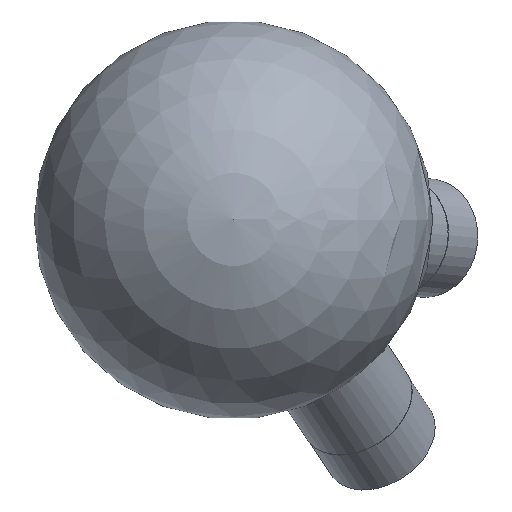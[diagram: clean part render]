
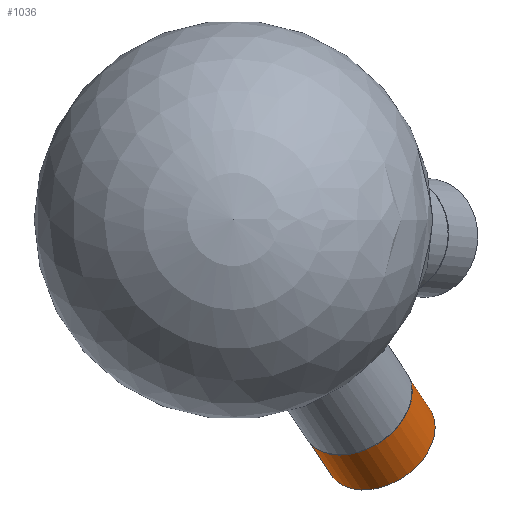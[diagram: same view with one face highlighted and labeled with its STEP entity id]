
A CAD part, top view. The second image highlights one B-rep face of the part: STEP entity #1036.
In plain terms, the highlighted cylindrical face has radius 5.95 mm (diameter 11.9 mm), a full revolution.
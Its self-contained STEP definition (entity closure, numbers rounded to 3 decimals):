
#804 = PLANE('',#805);
#805 = AXIS2_PLACEMENT_3D('',#806,#807,#808);
#806 = CARTESIAN_POINT('',(12.362,-18.66,
    -22.521));
#807 = DIRECTION('',(0.389,-0.588,-0.709));
#808 = DIRECTION('',(0.,-0.77,0.638)
  );
#918 = EDGE_CURVE('',#919,#919,#921,.T.);
#919 = VERTEX_POINT('',#920);
#920 = CARTESIAN_POINT('',(12.362,-23.242,
    -18.725));
#921 = SURFACE_CURVE('',#922,(#927,#934),.PCURVE_S1.);
#922 = CIRCLE('',#923,5.95);
#923 = AXIS2_PLACEMENT_3D('',#924,#925,#926);
#924 = CARTESIAN_POINT('',(12.362,-18.66,
    -22.521));
#925 = DIRECTION('',(0.389,-0.588,-0.709));
#926 = DIRECTION('',(0.,-0.77,0.638)
  );
#927 = PCURVE('',#804,#928);
#928 = DEFINITIONAL_REPRESENTATION('',(#929),#933);
#929 = CIRCLE('',#930,5.95);
#930 = AXIS2_PLACEMENT_2D('',#931,#932);
#931 = CARTESIAN_POINT('',(0.,0.));
#932 = DIRECTION('',(1.,0.));
#933 = ( GEOMETRIC_REPRESENTATION_CONTEXT(2) 
PARAMETRIC_REPRESENTATION_CONTEXT() REPRESENTATION_CONTEXT('2D SPACE',''
  ) );
#934 = PCURVE('',#935,#940);
#935 = CYLINDRICAL_SURFACE('',#936,5.95);
#936 = AXIS2_PLACEMENT_3D('',#937,#938,#939);
#937 = CARTESIAN_POINT('',(12.362,-18.66,
    -22.521));
#938 = DIRECTION('',(0.389,-0.588,-0.709));
#939 = DIRECTION('',(0.,-0.77,0.638)
  );
#940 = DEFINITIONAL_REPRESENTATION('',(#941),#945);
#941 = LINE('',#942,#943);
#942 = CARTESIAN_POINT('',(0.,0.));
#943 = VECTOR('',#944,1.);
#944 = DIRECTION('',(1.,0.));
#945 = ( GEOMETRIC_REPRESENTATION_CONTEXT(2) 
PARAMETRIC_REPRESENTATION_CONTEXT() REPRESENTATION_CONTEXT('2D SPACE',''
  ) );
#1036 = ADVANCED_FACE('',(#1037),#935,.T.);
#1037 = FACE_BOUND('',#1038,.T.);
#1038 = EDGE_LOOP('',(#1039,#1068,#1089,#1090));
#1039 = ORIENTED_EDGE('',*,*,#1040,.F.);
#1040 = EDGE_CURVE('',#1041,#1041,#1043,.T.);
#1041 = VERTEX_POINT('',#1042);
#1042 = CARTESIAN_POINT('',(14.698,-26.768,
    -22.98));
#1043 = SURFACE_CURVE('',#1044,(#1049,#1056),.PCURVE_S1.);
#1044 = CIRCLE('',#1045,5.95);
#1045 = AXIS2_PLACEMENT_3D('',#1046,#1047,#1048);
#1046 = CARTESIAN_POINT('',(14.698,-22.186,
    -26.776));
#1047 = DIRECTION('',(0.389,-0.588,-0.709));
#1048 = DIRECTION('',(0.,-0.77,0.638
    ));
#1049 = PCURVE('',#935,#1050);
#1050 = DEFINITIONAL_REPRESENTATION('',(#1051),#1055);
#1051 = LINE('',#1052,#1053);
#1052 = CARTESIAN_POINT('',(0.,6.));
#1053 = VECTOR('',#1054,1.);
#1054 = DIRECTION('',(1.,0.));
#1055 = ( GEOMETRIC_REPRESENTATION_CONTEXT(2) 
PARAMETRIC_REPRESENTATION_CONTEXT() REPRESENTATION_CONTEXT('2D SPACE',''
  ) );
#1056 = PCURVE('',#1057,#1062);
#1057 = PLANE('',#1058);
#1058 = AXIS2_PLACEMENT_3D('',#1059,#1060,#1061);
#1059 = CARTESIAN_POINT('',(14.698,-22.186,
    -26.776));
#1060 = DIRECTION('',(0.389,-0.588,-0.709));
#1061 = DIRECTION('',(0.,-0.77,0.638
    ));
#1062 = DEFINITIONAL_REPRESENTATION('',(#1063),#1067);
#1063 = CIRCLE('',#1064,5.95);
#1064 = AXIS2_PLACEMENT_2D('',#1065,#1066);
#1065 = CARTESIAN_POINT('',(0.,0.));
#1066 = DIRECTION('',(1.,0.));
#1067 = ( GEOMETRIC_REPRESENTATION_CONTEXT(2) 
PARAMETRIC_REPRESENTATION_CONTEXT() REPRESENTATION_CONTEXT('2D SPACE',''
  ) );
#1068 = ORIENTED_EDGE('',*,*,#1069,.F.);
#1069 = EDGE_CURVE('',#919,#1041,#1070,.T.);
#1070 = SEAM_CURVE('',#1071,(#1075,#1082),.PCURVE_S1.);
#1071 = LINE('',#1072,#1073);
#1072 = CARTESIAN_POINT('',(12.362,-23.242,
    -18.725));
#1073 = VECTOR('',#1074,1.);
#1074 = DIRECTION('',(0.389,-0.588,-0.709));
#1075 = PCURVE('',#935,#1076);
#1076 = DEFINITIONAL_REPRESENTATION('',(#1077),#1081);
#1077 = LINE('',#1078,#1079);
#1078 = CARTESIAN_POINT('',(6.283,-0.));
#1079 = VECTOR('',#1080,1.);
#1080 = DIRECTION('',(0.,1.));
#1081 = ( GEOMETRIC_REPRESENTATION_CONTEXT(2) 
PARAMETRIC_REPRESENTATION_CONTEXT() REPRESENTATION_CONTEXT('2D SPACE',''
  ) );
#1082 = PCURVE('',#935,#1083);
#1083 = DEFINITIONAL_REPRESENTATION('',(#1084),#1088);
#1084 = LINE('',#1085,#1086);
#1085 = CARTESIAN_POINT('',(0.,-0.));
#1086 = VECTOR('',#1087,1.);
#1087 = DIRECTION('',(0.,1.));
#1088 = ( GEOMETRIC_REPRESENTATION_CONTEXT(2) 
PARAMETRIC_REPRESENTATION_CONTEXT() REPRESENTATION_CONTEXT('2D SPACE',''
  ) );
#1089 = ORIENTED_EDGE('',*,*,#918,.T.);
#1090 = ORIENTED_EDGE('',*,*,#1069,.T.);
